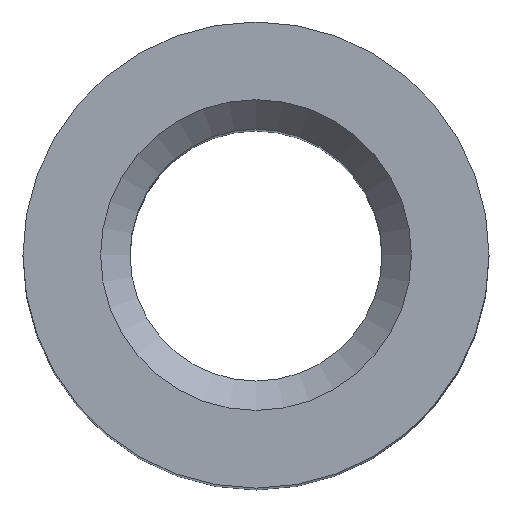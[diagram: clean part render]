
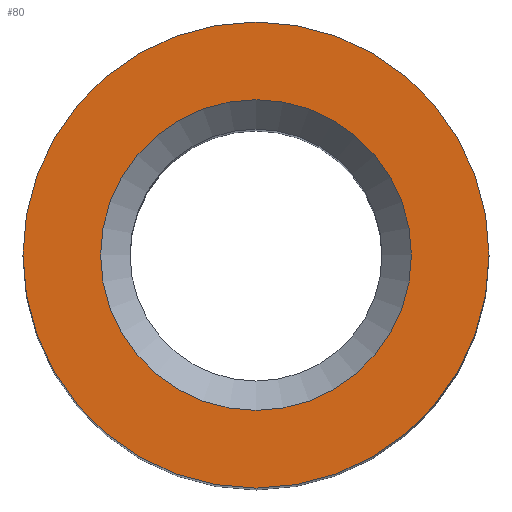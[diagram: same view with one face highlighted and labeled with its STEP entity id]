
A CAD part, top view. The second image highlights one B-rep face of the part: STEP entity #80.
In plain terms, the highlighted planar face has unit normal (0, 0, 1).
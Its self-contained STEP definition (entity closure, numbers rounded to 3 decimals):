
#16=PLANE('',#100);
#24=FACE_BOUND('',#42,.T.);
#30=FACE_OUTER_BOUND('',#41,.T.);
#41=EDGE_LOOP('',(#71));
#42=EDGE_LOOP('',(#72));
#47=CIRCLE('',#97,2.);
#48=CIRCLE('',#99,3.);
#53=VERTEX_POINT('',#140);
#54=VERTEX_POINT('',#143);
#59=EDGE_CURVE('',#53,#53,#47,.T.);
#60=EDGE_CURVE('',#54,#54,#48,.T.);
#71=ORIENTED_EDGE('',*,*,#60,.T.);
#72=ORIENTED_EDGE('',*,*,#59,.T.);
#80=ADVANCED_FACE('',(#30,#24),#16,.T.);
#97=AXIS2_PLACEMENT_3D('',#141,#119,#120);
#99=AXIS2_PLACEMENT_3D('',#144,#123,#124);
#100=AXIS2_PLACEMENT_3D('',#145,#125,#126);
#119=DIRECTION('center_axis',(0.,0.,-1.));
#120=DIRECTION('ref_axis',(1.,0.,0.));
#123=DIRECTION('center_axis',(0.,0.,1.));
#124=DIRECTION('ref_axis',(-1.,0.,0.));
#125=DIRECTION('center_axis',(0.,0.,1.));
#126=DIRECTION('ref_axis',(1.,0.,0.));
#140=CARTESIAN_POINT('',(2.,0.,14.));
#141=CARTESIAN_POINT('Origin',(0.,0.,14.));
#143=CARTESIAN_POINT('',(3.,0.,14.));
#144=CARTESIAN_POINT('Origin',(0.,0.,14.));
#145=CARTESIAN_POINT('Origin',(0.,0.,14.));
